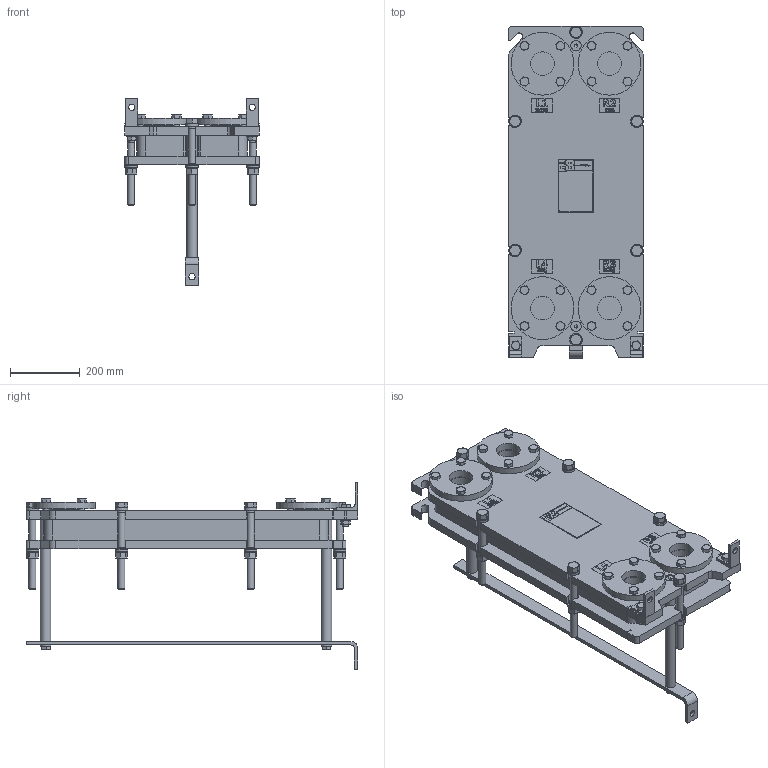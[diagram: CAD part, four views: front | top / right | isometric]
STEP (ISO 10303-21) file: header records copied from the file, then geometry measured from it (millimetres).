
FILE_DESCRIPTION (( 'STEP AP214' ), '1' );
FILE_NAME ('ÏÒ N65 ðåä 7 ê ñèãìà 0...50.STEP', '2021-04-10T19:11:25', ( '' ), ( '' ), 'SwSTEP 2.0', 'SolidWorks 2018', '' );
FILE_SCHEMA (( 'AUTOMOTIVE_DESIGN' ));
Length unit declared in the file: millimetre
Products named in the file (3): ÏÒ N65 ðåä 7 ê ñèãìà2 0...50; ÏÒ N65 ðåä 7 ê ñèãìà 0...50; ÏÒ N65 ðåä 7 ê ñèãìà1
Assembly tree (2 placements, depth 2):
  ÏÒ N65 ðåä 7 ê ñèãìà 0...50
    ÏÒ N65 ðåä 7 ê ñèãìà2 0...50
    ÏÒ N65 ðåä 7 ê ñèãìà1
Bounding box: 385 x 950 x 535 mm (x, y, z)
Volume: 35033491.4 mm3; surface area: 2868105.1 mm2
Topology: 28 solids, 34 shells, 2008 faces, 4903 edges, 3126 vertices
Faces by surface type: plane 1024, cone 434, bspline 275, cylinder 241, torus 34
Full cylindrical faces by diameter (mm): 16 x44, 17 x4, 18 x25, 20 x12, 21 x12, 27 x12, 29.48 x2, 30 x8, 36 x12, 68 x12, 68.01 x4, 121 x4, 180 x4
Entity records: 88632 total; most frequent: CARTESIAN_POINT 23642, ORIENTED_EDGE 8964, DIRECTION 7784, EDGE_CURVE 4482, VERTEX_POINT 3028, AXIS2_PLACEMENT_3D 2714, EDGE_LOOP 2600, VECTOR 2356
